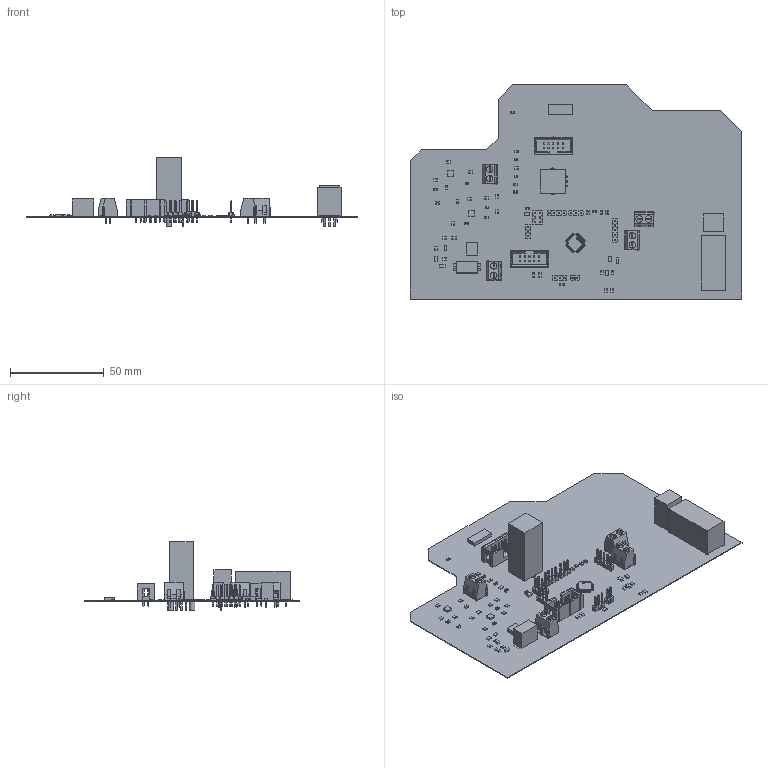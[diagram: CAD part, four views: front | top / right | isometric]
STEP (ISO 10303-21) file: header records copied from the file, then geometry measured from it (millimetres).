
FILE_DESCRIPTION(('Open CASCADE Model'),'2;1');
FILE_NAME('Open CASCADE Shape Model','2023-05-24T10:49:57',('Author'),( 'Open CASCADE'),'Open CASCADE STEP processor 7.5','Open CASCADE 7.5' ,'Unknown');
FILE_SCHEMA(('AUTOMOTIVE_DESIGN { 1 0 10303 214 1 1 1 1 }'));
Length unit declared in the file: millimetre
Products named in the file (133): PCB; Board; Open CASCADE STEP translator 7.5 1.1.1; K12; 61201021621; 6120xx21621_PIN; ATMEGA4809; IC_Microchip_PIC24FJ256GA705-I-PT_eec; body; pins; logo; T5; 6169992064; Extruded; T4; 6069375168; T3; 6069379808; T2; T1; RE1; 6068184336; R28; 6144487376; 6144486976; R25; R24; R23; R22; 6169994544; 6169994384; R21; R19; R18; R17; R16; R15; R14; R13; R12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
Assembly tree (276 placements, depth 5):
  PCB
    Board
      Open CASCADE STEP translator 7.5 1.1.1
    K12
      61201021621
        6120xx21621_PIN  x10
        61201021621
    ATMEGA4809
      IC_Microchip_PIC24FJ256GA705-I-PT_eec
        body
        pins
        logo
    T5
      6169992064
        Extruded
    T4
      6069375168
        Extruded
    T3
      6069379808
        Extruded
    T2
      6069375168
        Extruded
    T1
      6069375168
        Extruded
    RE1
      6068184336
    R28
      6144487376  x2
        Extruded
      6144486976
        Extruded
    R25
      6144487376  x2
        Extruded
      6144486976
        Extruded
    R24
      6144487376  x2
        Extruded
      6144486976
        Extruded
    R23
      6144487376  x2
        Extruded
      6144486976
        Extruded
    R22
      6169994544
        Extruded
      6169994384  x2
        Extruded
    R21
      6169994384  x2
        Extruded
      6169994544
        Extruded
    R19
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Bounding box: 176.66 x 114.17 x 36.6 mm (x, y, z)
Volume: 25667 mm3; surface area: 49677 mm2
Topology: 320 solids, 320 shells, 5797 faces, 24065 edges, 28380 vertices
Faces by surface type: plane 3131, bspline 1738, cylinder 688, sphere 240
Full cylindrical faces by diameter (mm): 0.56 x1, 0.8 x3, 0.85 x12, 0.88 x9, 2.96 x2
Entity records: 75843 total; most frequent: CARTESIAN_POINT 16292, ORIENTED_EDGE 10648, DIRECTION 9951, EDGE_CURVE 5324, LINE 4259, VECTOR 4259, VERTEX_POINT 3484, AXIS2_PLACEMENT_3D 2846
